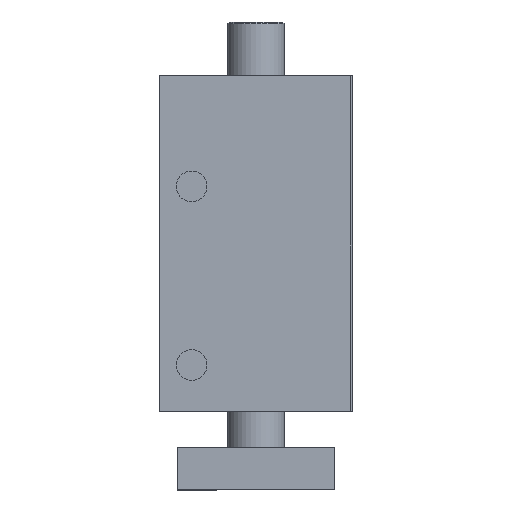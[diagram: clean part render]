
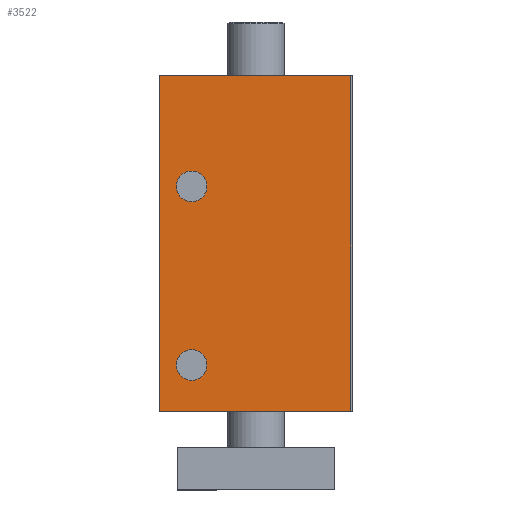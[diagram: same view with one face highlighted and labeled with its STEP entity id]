
A CAD part, front view. The second image highlights one B-rep face of the part: STEP entity #3522.
In plain terms, the highlighted planar face has unit normal (0, -1, 0).
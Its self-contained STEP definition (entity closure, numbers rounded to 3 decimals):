
#255=CARTESIAN_POINT('',(-27.0,-60.0,0.0));
#256=VERTEX_POINT('',#255);
#263=CARTESIAN_POINT('',(-27.0,-60.0,94.0));
#264=VERTEX_POINT('',#263);
#265=CARTESIAN_POINT('',(-27.0,-60.0,0.0));
#266=DIRECTION('',(0.0,0.0,1.0));
#267=VECTOR('',#266,94.0);
#268=LINE('',#265,#267);
#269=EDGE_CURVE('',#256,#264,#268,.T.);
#971=CARTESIAN_POINT('',(26.5,-60.0,0.0));
#972=VERTEX_POINT('',#971);
#979=CARTESIAN_POINT('',(-27.0,-60.0,0.0));
#980=DIRECTION('',(1.0,0.0,0.0));
#981=VECTOR('',#980,53.5);
#982=LINE('',#979,#981);
#983=EDGE_CURVE('',#256,#972,#982,.T.);
#2359=CARTESIAN_POINT('',(-13.717,-60.0,63.0));
#2360=VERTEX_POINT('',#2359);
#2361=CARTESIAN_POINT('',(-18.0,-60.0,63.0));
#2362=DIRECTION('',(0.0,1.0,0.0));
#2363=DIRECTION('',(1.0,0.0,0.0));
#2364=AXIS2_PLACEMENT_3D('',#2361,#2362,#2363);
#2365=CIRCLE('',#2364,4.283);
#2366=EDGE_CURVE('',#2360,#2360,#2365,.T.);
#2396=CARTESIAN_POINT('',(-13.717,-60.0,13.0));
#2397=VERTEX_POINT('',#2396);
#2398=CARTESIAN_POINT('',(-18.0,-60.0,13.0));
#2399=DIRECTION('',(0.0,1.0,0.0));
#2400=DIRECTION('',(1.0,0.0,0.0));
#2401=AXIS2_PLACEMENT_3D('',#2398,#2399,#2400);
#2402=CIRCLE('',#2401,4.283);
#2403=EDGE_CURVE('',#2397,#2397,#2402,.T.);
#3481=CARTESIAN_POINT('',(26.5,-60.0,94.0));
#3482=VERTEX_POINT('',#3481);
#3489=CARTESIAN_POINT('',(26.5,-60.0,0.0));
#3490=DIRECTION('',(0.0,0.0,1.0));
#3491=VECTOR('',#3490,94.0);
#3492=LINE('',#3489,#3491);
#3493=EDGE_CURVE('',#972,#3482,#3492,.T.);
#3500=CARTESIAN_POINT('',(26.5,-60.0,0.0));
#3501=DIRECTION('',(0.0,-1.0,0.0));
#3502=DIRECTION('',(0.0,0.0,-1.0));
#3503=AXIS2_PLACEMENT_3D('',#3500,#3501,#3502);
#3504=PLANE('',#3503);
#3505=CARTESIAN_POINT('',(26.5,-60.0,94.0));
#3506=DIRECTION('',(-1.0,0.0,0.0));
#3507=VECTOR('',#3506,53.5);
#3508=LINE('',#3505,#3507);
#3509=EDGE_CURVE('',#3482,#264,#3508,.T.);
#3510=ORIENTED_EDGE('',*,*,#3509,.T.);
#3511=ORIENTED_EDGE('',*,*,#269,.F.);
#3512=ORIENTED_EDGE('',*,*,#983,.T.);
#3513=ORIENTED_EDGE('',*,*,#3493,.T.);
#3514=EDGE_LOOP('',(#3510,#3511,#3512,#3513));
#3515=FACE_OUTER_BOUND('',#3514,.T.);
#3516=ORIENTED_EDGE('',*,*,#2366,.T.);
#3517=EDGE_LOOP('',(#3516));
#3518=FACE_BOUND('',#3517,.T.);
#3519=ORIENTED_EDGE('',*,*,#2403,.T.);
#3520=EDGE_LOOP('',(#3519));
#3521=FACE_BOUND('',#3520,.T.);
#3522=ADVANCED_FACE('',(#3515,#3518,#3521),#3504,.T.);
